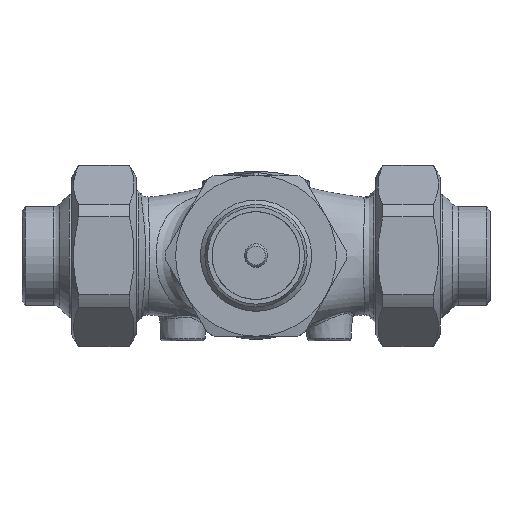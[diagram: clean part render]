
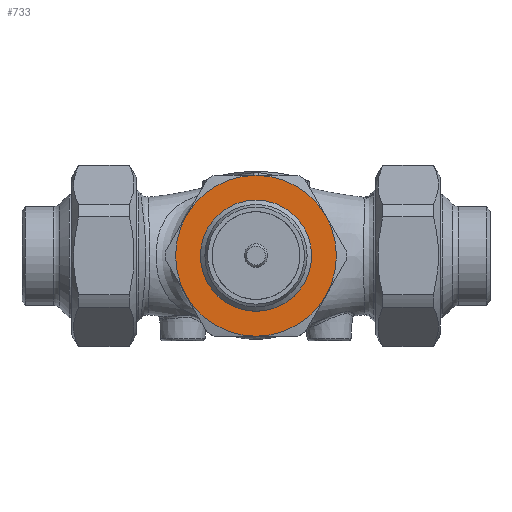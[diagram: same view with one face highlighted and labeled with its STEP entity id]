
A CAD part, top view. The second image highlights one B-rep face of the part: STEP entity #733.
In plain terms, the highlighted planar face has unit normal (0, 0, 1).
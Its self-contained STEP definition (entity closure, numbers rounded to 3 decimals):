
#733=ADVANCED_FACE('',(#978,#979),#833,.T.);
#833=PLANE('',#3086);
#978=FACE_BOUND('',#1251,.T.);
#979=FACE_BOUND('',#1252,.T.);
#1251=EDGE_LOOP('',(#1821));
#1252=EDGE_LOOP('',(#1822,#1823,#1824,#1825,#1826,#1827));
#1821=ORIENTED_EDGE('',*,*,#2581,.F.);
#1822=ORIENTED_EDGE('',*,*,#2530,.T.);
#1823=ORIENTED_EDGE('',*,*,#2534,.T.);
#1824=ORIENTED_EDGE('',*,*,#2542,.T.);
#1825=ORIENTED_EDGE('',*,*,#2546,.T.);
#1826=ORIENTED_EDGE('',*,*,#2574,.T.);
#1827=ORIENTED_EDGE('',*,*,#2536,.T.);
#2219=VERTEX_POINT('',#11372);
#2221=VERTEX_POINT('',#11379);
#2224=VERTEX_POINT('',#11393);
#2226=VERTEX_POINT('',#11402);
#2230=VERTEX_POINT('',#11421);
#2233=VERTEX_POINT('',#11435);
#2248=VERTEX_POINT('',#11542);
#2530=EDGE_CURVE('',#2219,#2221,#2785,.T.);
#2534=EDGE_CURVE('',#2221,#2224,#2787,.T.);
#2536=EDGE_CURVE('',#2226,#2219,#2788,.T.);
#2542=EDGE_CURVE('',#2224,#2230,#2791,.T.);
#2546=EDGE_CURVE('',#2230,#2233,#2793,.T.);
#2574=EDGE_CURVE('',#2233,#2226,#2800,.T.);
#2581=EDGE_CURVE('',#2248,#2248,#2802,.T.);
#2785=CIRCLE('',#3050,27.5);
#2787=CIRCLE('',#3053,27.5);
#2788=CIRCLE('',#3055,27.5);
#2791=CIRCLE('',#3059,27.5);
#2793=CIRCLE('',#3062,27.5);
#2800=CIRCLE('',#3080,27.5);
#2802=CIRCLE('',#3085,19.);
#3050=AXIS2_PLACEMENT_3D('',#11380,#3626,#3627);
#3053=AXIS2_PLACEMENT_3D('',#11394,#3632,#3633);
#3055=AXIS2_PLACEMENT_3D('',#11401,#3636,#3637);
#3059=AXIS2_PLACEMENT_3D('',#11422,#3644,#3645);
#3062=AXIS2_PLACEMENT_3D('',#11436,#3650,#3651);
#3080=AXIS2_PLACEMENT_3D('',#11520,#3696,#3697);
#3085=AXIS2_PLACEMENT_3D('',#11541,#3708,#3709);
#3086=AXIS2_PLACEMENT_3D('',#11543,#3710,#3711);
#3626=DIRECTION('',(0.,0.,1.));
#3627=DIRECTION('',(-1.,0.,0.));
#3632=DIRECTION('',(0.,0.,1.));
#3633=DIRECTION('',(-1.,0.,0.));
#3636=DIRECTION('',(0.,0.,1.));
#3637=DIRECTION('',(-1.,0.,0.));
#3644=DIRECTION('',(0.,0.,1.));
#3645=DIRECTION('',(-1.,0.,0.));
#3650=DIRECTION('',(0.,0.,1.));
#3651=DIRECTION('',(-1.,0.,0.));
#3696=DIRECTION('',(0.,0.,1.));
#3697=DIRECTION('',(-1.,0.,0.));
#3708=DIRECTION('',(0.,0.,1.));
#3709=DIRECTION('',(1.,0.,0.));
#3710=DIRECTION('',(0.,0.,1.));
#3711=DIRECTION('',(-1.,0.,0.));
#11372=CARTESIAN_POINT('',(-23.816,-13.75,48.));
#11379=CARTESIAN_POINT('',(0.,-27.5,48.));
#11380=CARTESIAN_POINT('',(0.,0.,48.));
#11393=CARTESIAN_POINT('',(23.816,-13.75,48.));
#11394=CARTESIAN_POINT('',(0.,0.,48.));
#11401=CARTESIAN_POINT('',(0.,0.,48.));
#11402=CARTESIAN_POINT('',(-23.816,13.75,48.));
#11421=CARTESIAN_POINT('',(23.816,13.75,48.));
#11422=CARTESIAN_POINT('',(0.,0.,48.));
#11435=CARTESIAN_POINT('',(0.,27.5,48.));
#11436=CARTESIAN_POINT('',(0.,0.,48.));
#11520=CARTESIAN_POINT('',(0.,0.,48.));
#11541=CARTESIAN_POINT('',(0.,0.,48.));
#11542=CARTESIAN_POINT('',(19.,0.,48.));
#11543=CARTESIAN_POINT('',(-19.5,0.,48.));
